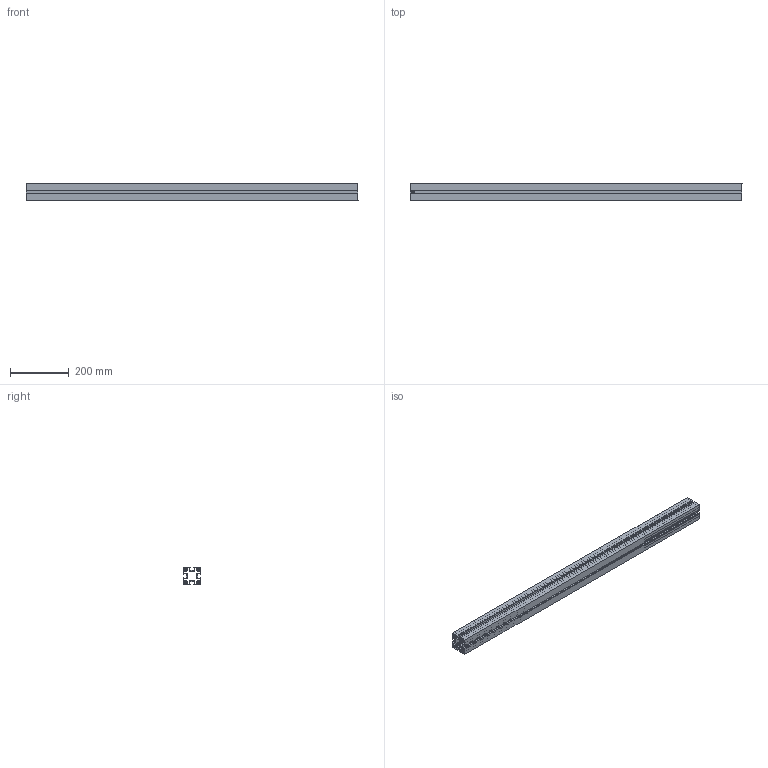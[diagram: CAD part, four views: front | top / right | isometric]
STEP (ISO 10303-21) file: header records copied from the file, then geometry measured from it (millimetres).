
FILE_DESCRIPTION(/* description */ (''),/* implementation_level */ '2;1');
FILE_NAME(/* name */ 'Pos102-Profiel 60x60-Aluminium-1st',/* time_stamp */ '2024-08-06T11:49:43+02:00',/* author */ (''),/* organization */ (''),/* preprocessor_version */ 'ST-DEVELOPER v16.5',/* originating_system */ 'HiCAD 2024 2901.2 Build 361',/* authorisation */ '');
FILE_SCHEMA (('AUTOMOTIVE_DESIGN { 1 0 10303 214 1 1 1 1 }'));
Length unit declared in the file: millimetre
Products named in the file (1): Pos102-Profiel 60x60-Aluminium-1st
Bounding box: 1133 x 60 x 60 mm (x, y, z)
Volume: 1080535.9 mm3; surface area: 989234.8 mm2
Topology: 1 solids, 1 shells, 92 faces, 272 edges, 182 vertices
Faces by surface type: plane 58, cylinder 34
Full cylindrical faces by diameter (mm): 8 x2, 8.5 x4
Entity records: 5718 total; most frequent: CARTESIAN_POINT 536, PRESENTATION_STYLE_ASSIGNMENT 529, COLOUR_RGB 529, DRAUGHTING_PRE_DEFINED_CURVE_FONT 528, CURVE_STYLE 528, OVER_RIDING_STYLED_ITEM 528, ORIENTED_EDGE 528, DIRECTION 516
